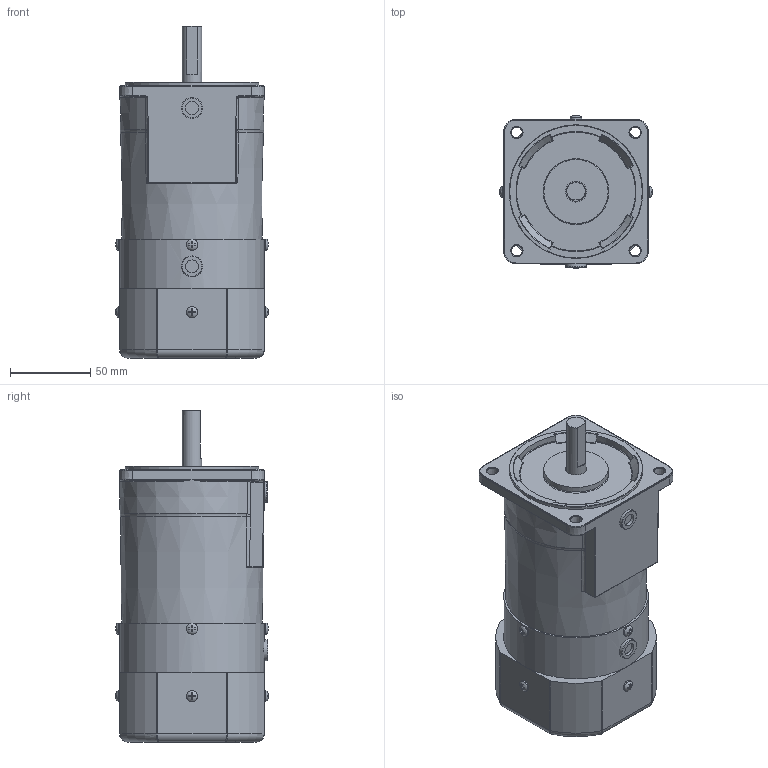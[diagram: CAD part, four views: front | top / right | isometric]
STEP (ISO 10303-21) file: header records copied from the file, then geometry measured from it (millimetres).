
FILE_DESCRIPTION (( 'STEP AP214' ), '1' );
FILE_NAME ('9BDD¤±-60F.STEP', '2025-01-13T07:46:47', ( '' ), ( '' ), 'SwSTEP 2.0', 'SolidWorks 2024', '' );
FILE_SCHEMA (( 'AUTOMOTIVE_DESIGN' ));
Length unit declared in the file: millimetre
Products named in the file (1): 9BDDㅁ-60F
Bounding box: 95.09 x 95.09 x 206.5 mm (x, y, z)
Volume: 1118526.2 mm3; surface area: 72180.4 mm2
Topology: 1 solids, 1 shells, 455 faces, 1156 edges, 725 vertices
Faces by surface type: plane 204, cylinder 145, torus 36, bspline 32, cone 32, sphere 6
Full cylindrical faces by diameter (mm): 6.1 x1, 6.5 x4, 7 x8, 8 x2, 12 x1, 13 x3, 40 x1, 83.1 x1, 90 x1
Entity records: 14972 total; most frequent: CARTESIAN_POINT 4478, DIRECTION 2163, ORIENTED_EDGE 2146, EDGE_CURVE 1073, AXIS2_PLACEMENT_3D 832, VERTEX_POINT 707, EDGE_LOOP 550, VECTOR 499
